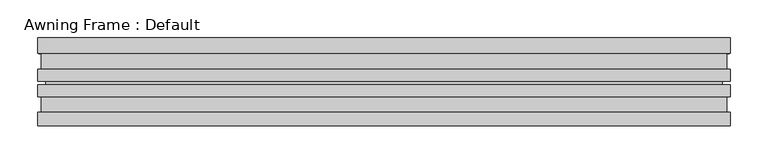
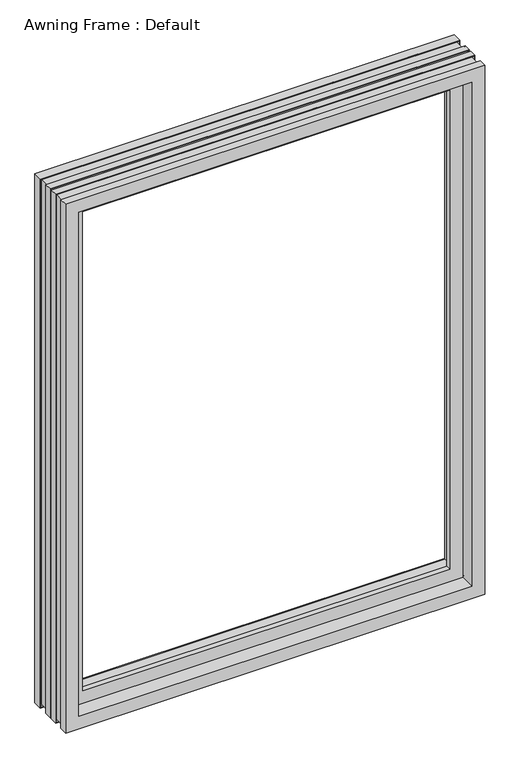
"""IFC4 building model written with IfcOpenShell, lengths in millimetres: proxy geometry, Awning Frame : Default."""

from ifc_helpers import new_model, si_unit, frame, origin, place, context, project, spatial, polyline, ellipse_curve, source, transform, mapped, element, save
from ifc_brep_helpers import plane_surface, revolved_surface, advanced_brep


def awning_frame_default_150c298d(model_context):
    return source(origin(), model_context, "Body", "AdvancedBrep", [
        advanced_brep(
        [(428.625, -82.55, 790.575), (-428.625, -82.55, 790.575), (-428.625, -115.8875, 790.575), (428.625, -115.8875, 790.575), (400.05, -69.85, 819.15), (-400.05, -69.85, 819.15), (-400.05, -82.55, 819.15), (400.05, -82.55, 819.15), (428.625, -14.2875, 790.575), (-428.625, -14.2875, 790.575), (-428.625, -69.85, 790.575), (428.625, -69.85, 790.575), (-428.625, -82.55, 1952.625), (-428.625, -115.8875, 1952.625), (-400.05, -69.85, 1924.05), (-400.05, -82.55, 1924.05), (-428.625, -14.2875, 1952.625), (-428.625, -69.85, 1952.625), (428.625, -82.55, 1952.625), (428.625, -115.8875, 1952.625), (400.05, -69.85, 1924.05), (400.05, -82.55, 1924.05), (428.625, -14.2875, 1952.625), (428.625, -69.85, 1952.625), (457.2, 0.0, 762.0), (-457.2, 0.0, 762.0), (-457.2, 0.0, 1981.2), (457.2, 0.0, 1981.2), (-438.15, 0.0, 781.05), (438.15, 0.0, 781.05), (438.15, 0.0, 1962.15), (-438.15, 0.0, 1962.15), (-457.2, -115.8875, 762.0), (457.2, -115.8875, 762.0), (457.2, -115.8875, 1981.2), (-457.2, -115.8875, 1981.2), (-438.15, -14.2875, 781.05), (438.15, -14.2875, 781.05), (-438.15, -14.2875, 1962.15), (438.15, -14.2875, 1962.15), (457.2, -20.6375, 762.0), (-457.2, -20.6375, 762.0), (454.421875, -17.4625, 764.778125), (-454.421875, -17.4625, 764.778125), (-456.009375, -20.6375, 763.190625), (456.009375, -20.6375, 763.190625), (452.4375, -44.45, 766.7625), (-452.4375, -44.45, 766.7625), (-452.4375, -17.4625, 766.7625), (452.4375, -17.4625, 766.7625), (456.009375, -41.275, 763.190625), (-456.009375, -41.275, 763.190625), (-454.421875, -44.45, 764.778125), (454.421875, -44.45, 764.778125), (457.2, -57.15, 762.0), (-457.2, -57.15, 762.0), (-457.2, -41.275, 762.0), (457.2, -41.275, 762.0), (455.6125, -61.9125, 763.5875), (-455.6125, -61.9125, 763.5875), (-455.6125, -57.15, 763.5875), (455.6125, -57.15, 763.5875), (457.2, -77.7875, 762.0), (-457.2, -77.7875, 762.0), (-457.2, -61.9125, 762.0), (457.2, -61.9125, 762.0), (454.421875, -74.6125, 764.778125), (-454.421875, -74.6125, 764.778125), (-456.009375, -77.7875, 763.190625), (456.009375, -77.7875, 763.190625), (452.4375, -101.6, 766.7625), (-452.4375, -101.6, 766.7625), (-452.4375, -74.6125, 766.7625), (452.4375, -74.6125, 766.7625), (456.009375, -98.425, 763.190625), (-456.009375, -98.425, 763.190625), (-454.421875, -101.6, 764.778125), (454.421875, -101.6, 764.778125), (-457.2, -98.425, 762.0), (457.2, -98.425, 762.0), (-457.2, -20.6375, 1981.2), (-454.421875, -17.4625, 1978.421875), (-456.009375, -20.6375, 1980.009375), (-452.4375, -44.45, 1976.4375), (-452.4375, -17.4625, 1976.4375), (-456.009375, -41.275, 1980.009375), (-454.421875, -44.45, 1978.421875), (-457.2, -57.15, 1981.2), (-457.2, -41.275, 1981.2), (-455.6125, -61.9125, 1979.6125), (-455.6125, -57.15, 1979.6125), (-457.2, -77.7875, 1981.2), (-457.2, -61.9125, 1981.2), (-454.421875, -74.6125, 1978.421875), (-456.009375, -77.7875, 1980.009375), (-452.4375, -101.6, 1976.4375), (-452.4375, -74.6125, 1976.4375), (-456.009375, -98.425, 1980.009375), (-454.421875, -101.6, 1978.421875), (-457.2, -98.425, 1981.2), (457.2, -20.6375, 1981.2), (454.421875, -17.4625, 1978.421875), (456.009375, -20.6375, 1980.009375), (452.4375, -44.45, 1976.4375), (452.4375, -17.4625, 1976.4375), (456.009375, -41.275, 1980.009375), (454.421875, -44.45, 1978.421875), (457.2, -57.15, 1981.2), (457.2, -41.275, 1981.2), (455.6125, -61.9125, 1979.6125), (455.6125, -57.15, 1979.6125), (457.2, -77.7875, 1981.2), (457.2, -61.9125, 1981.2), (454.421875, -74.6125, 1978.421875), (456.009375, -77.7875, 1980.009375), (452.4375, -101.6, 1976.4375), (452.4375, -74.6125, 1976.4375), (456.009375, -98.425, 1980.009375), (454.421875, -101.6, 1978.421875), (457.2, -98.425, 1981.2)],
        [
            (0, 1),
            (1, 2),
            (2, 3),
            (3, 0),
            (4, 5),
            (5, 6),
            (6, 7),
            (7, 4),
            (8, 9),
            (9, 10),
            (10, 11),
            (11, 8),
            (1, 12),
            (12, 13),
            (13, 2),
            (5, 14),
            (14, 15),
            (15, 6),
            (9, 16),
            (16, 17),
            (17, 10),
            (12, 18),
            (18, 19),
            (19, 13),
            (14, 20),
            (20, 21),
            (21, 15),
            (16, 22),
            (22, 23),
            (23, 17),
            (18, 0),
            (3, 19),
            (21, 7),
            (20, 4),
            (23, 11),
            (22, 8),
            (24, 25),
            (25, 26),
            (26, 27),
            (27, 24),
            (28, 29),
            (29, 30),
            (30, 31),
            (31, 28),
            (32, 33),
            (33, 34),
            (34, 35),
            (35, 32),
            (28, 36),
            (36, 37),
            (37, 29),
            (31, 38),
            (38, 36),
            (30, 39),
            (39, 38),
            (39, 37),
            (40, 41),
            (41, 25),
            (24, 40),
            (42, 43),
            (43, 44),
            (44, 45),
            (45, 42),
            (46, 47),
            (47, 48),
            (48, 49),
            (49, 46),
            (50, 51),
            (51, 52),
            (52, 53),
            (53, 50),
            (54, 55),
            (55, 56),
            (56, 57),
            (57, 54),
            (58, 59),
            (59, 60, ellipse_curve(frame((-451.488054, -59.53125, 767.711946), z_axis=(-0.7071067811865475, 0.0, 0.7071067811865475), x_axis=(-0.7071067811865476, 0.0, -0.7071067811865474)), 6.7351921, 4.7625)),
            (60, 61),
            (61, 58, ellipse_curve(frame((451.488054, -59.53125, 767.711946), z_axis=(0.7071067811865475, 0.0, 0.7071067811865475), x_axis=(-0.7071067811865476, 0.0, 0.7071067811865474)), 6.7351921, 4.7625)),
            (62, 63),
            (63, 64),
            (64, 65),
            (65, 62),
            (66, 67),
            (67, 68),
            (68, 69),
            (69, 66),
            (70, 71),
            (71, 72),
            (72, 73),
            (73, 70),
            (74, 75),
            (75, 76),
            (76, 77),
            (77, 74),
            (32, 78),
            (78, 79),
            (79, 33),
            (41, 80),
            (80, 26),
            (43, 81),
            (81, 82),
            (82, 44),
            (47, 83),
            (83, 84),
            (84, 48),
            (51, 85),
            (85, 86),
            (86, 52),
            (55, 87),
            (87, 88),
            (88, 56),
            (59, 89),
            (89, 90, ellipse_curve(frame((-451.488054, -59.53125, 1975.488054), z_axis=(0.7071067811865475, 0.0, 0.7071067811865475), x_axis=(-0.7071067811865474, 0.0, 0.7071067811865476)), 6.7351921, 4.7625)),
            (90, 60),
            (63, 91),
            (91, 92),
            (92, 64),
            (67, 93),
            (93, 94),
            (94, 68),
            (71, 95),
            (95, 96),
            (96, 72),
            (75, 97),
            (97, 98),
            (98, 76),
            (35, 99),
            (99, 78),
            (80, 100),
            (100, 27),
            (81, 101),
            (101, 102),
            (102, 82),
            (83, 103),
            (103, 104),
            (104, 84),
            (85, 105),
            (105, 106),
            (106, 86),
            (87, 107),
            (107, 108),
            (108, 88),
            (89, 109),
            (109, 110, ellipse_curve(frame((451.488054, -59.53125, 1975.488054), z_axis=(0.7071067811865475, 0.0, -0.7071067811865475), x_axis=(0.7071067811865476, 0.0, 0.7071067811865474)), 6.7351921, 4.7625)),
            (110, 90),
            (91, 111),
            (111, 112),
            (112, 92),
            (93, 113),
            (113, 114),
            (114, 94),
            (95, 115),
            (115, 116),
            (116, 96),
            (97, 117),
            (117, 118),
            (118, 98),
            (34, 119),
            (119, 99),
            (100, 40),
            (102, 45),
            (101, 42),
            (104, 49),
            (103, 46),
            (106, 53),
            (105, 50),
            (108, 57),
            (107, 54),
            (110, 61),
            (109, 58),
            (112, 65),
            (111, 62),
            (114, 69),
            (113, 66),
            (116, 73),
            (115, 70),
            (118, 77),
            (117, 74),
            (119, 79),
        ],
        [
            plane_surface(frame((428.625, -115.8875, 790.575), z_axis=(0.0, 0.0, 1.0), x_axis=(-1.0, 0.0, 0.0))),
            plane_surface(frame((400.05, -82.55, 819.15), z_axis=(0.0, 0.0, 1.0), x_axis=(-1.0, 0.0, 0.0))),
            plane_surface(frame((428.625, -69.85, 790.575), z_axis=(0.0, 0.0, 1.0), x_axis=(-1.0, 0.0, 0.0))),
            plane_surface(frame((-428.625, -115.8875, 790.575), z_axis=(1.0, 0.0, 0.0), x_axis=(0.0, 0.0, 1.0))),
            plane_surface(frame((-400.05, -82.55, 819.15), z_axis=(1.0, 0.0, 0.0), x_axis=(0.0, 0.0, 1.0))),
            plane_surface(frame((-428.625, -69.85, 790.575), z_axis=(1.0, 0.0, 0.0), x_axis=(0.0, 0.0, 1.0))),
            plane_surface(frame((-428.625, -115.8875, 1952.625), z_axis=(0.0, 0.0, -1.0), x_axis=(1.0, 0.0, 0.0))),
            plane_surface(frame((-400.05, -82.55, 1924.05), z_axis=(0.0, 0.0, -1.0), x_axis=(1.0, 0.0, 0.0))),
            plane_surface(frame((-428.625, -69.85, 1952.625), z_axis=(0.0, 0.0, -1.0), x_axis=(1.0, 0.0, 0.0))),
            plane_surface(frame((428.625, -115.8875, 1952.625), z_axis=(-1.0, 0.0, 0.0), x_axis=(0.0, 0.0, -1.0))),
            plane_surface(frame((428.625, -82.55, 1952.625), z_axis=(0.0, -1.0, 0.0), x_axis=(0.0, 0.0, -1.0))),
            plane_surface(frame((400.05, -82.55, 1924.05), z_axis=(-1.0, 0.0, 0.0), x_axis=(0.0, 0.0, -1.0))),
            plane_surface(frame((400.05, -69.85, 1924.05), z_axis=(0.0, 1.0, 0.0), x_axis=(0.0, 0.0, -1.0))),
            plane_surface(frame((428.625, -69.85, 1952.625), z_axis=(-1.0, 0.0, 0.0), x_axis=(0.0, 0.0, -1.0))),
            plane_surface(frame((438.15, 0.0, 1962.15), z_axis=(0.0, 1.0, 0.0), x_axis=(0.0, 0.0, -1.0))),
            plane_surface(frame((457.2, -115.8875, 1981.2), z_axis=(0.0, -1.0, 0.0), x_axis=(0.0, 0.0, -1.0))),
            plane_surface(frame((438.15, -14.2875, 781.05), z_axis=(0.0, 0.0, 1.0), x_axis=(-1.0, 0.0, 0.0))),
            plane_surface(frame((-438.15, -14.2875, 781.05), z_axis=(1.0, 0.0, 0.0), x_axis=(0.0, 0.0, 1.0))),
            plane_surface(frame((-438.15, -14.2875, 1962.15), z_axis=(0.0, 0.0, -1.0), x_axis=(1.0, 0.0, 0.0))),
            plane_surface(frame((428.625, -14.2875, 1952.625), z_axis=(0.0, 1.0, 0.0), x_axis=(0.0, 0.0, -1.0))),
            plane_surface(frame((438.15, -14.2875, 1962.15), z_axis=(-1.0, 0.0, 0.0), x_axis=(0.0, 0.0, -1.0))),
            plane_surface(frame((457.2, 0.0, 762.0), z_axis=(0.0, 0.0, -1.0), x_axis=(-1.0, 0.0, 0.0))),
            plane_surface(frame((456.009375, -20.6375, 763.190625), z_axis=(0.0, -0.4472135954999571, 0.8944271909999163), x_axis=(-1.0, 0.0, 0.0))),
            plane_surface(frame((452.4375, -17.4625, 766.7625), z_axis=(0.0, 0.0, -1.0), x_axis=(-1.0, 0.0, 0.0))),
            plane_surface(frame((454.421875, -44.45, 764.778125), z_axis=(0.0, 0.44721359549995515, 0.8944271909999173), x_axis=(-1.0, 0.0, 0.0))),
            plane_surface(frame((457.2, -41.275, 762.0), z_axis=(0.0, 0.0, -1.0), x_axis=(-1.0, 0.0, 0.0))),
            revolved_surface(polyline([(-456.25055400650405, -54.76875, 767.711946), (456.25055400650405, -54.76875, 767.711946)]), (457.2, -59.53125, 767.711946), (-1.0, 0.0, 0.0)),
            plane_surface(frame((457.2, -61.9125, 762.0), z_axis=(0.0, 0.0, -1.0), x_axis=(-1.0, 0.0, 0.0))),
            plane_surface(frame((456.009375, -77.7875, 763.190625), z_axis=(0.0, -0.4472135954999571, 0.8944271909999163), x_axis=(-1.0, 0.0, 0.0))),
            plane_surface(frame((452.4375, -74.6125, 766.7625), z_axis=(0.0, 0.0, -1.0), x_axis=(-1.0, 0.0, 0.0))),
            plane_surface(frame((454.421875, -101.6, 764.778125), z_axis=(0.0, 0.44721359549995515, 0.8944271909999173), x_axis=(-1.0, 0.0, 0.0))),
            plane_surface(frame((457.2, -98.425, 762.0), z_axis=(0.0, 0.0, -1.0), x_axis=(-1.0, 0.0, 0.0))),
            plane_surface(frame((-457.2, 0.0, 762.0), z_axis=(-1.0, 0.0, 0.0), x_axis=(0.0, 0.0, 1.0))),
            plane_surface(frame((-456.009375, -20.6375, 763.190625), z_axis=(0.8944271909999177, -0.4472135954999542, 0.0), x_axis=(0.0, 0.0, 1.0))),
            plane_surface(frame((-452.4375, -17.4625, 766.7625), z_axis=(-1.0, 0.0, 0.0), x_axis=(0.0, 0.0, 1.0))),
            plane_surface(frame((-454.421875, -44.45, 764.778125), z_axis=(0.8944271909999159, 0.44721359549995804, 0.0), x_axis=(0.0, 0.0, 1.0))),
            plane_surface(frame((-457.2, -41.275, 762.0), z_axis=(-1.0, 0.0, 0.0), x_axis=(0.0, 0.0, 1.0))),
            revolved_surface(polyline([(-451.488054, -54.76875, 1980.250554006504), (-451.488054, -54.76875, 762.9494459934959)]), (-451.488054, -59.53125, 762.0), (0.0, 0.0, 1.0)),
            plane_surface(frame((-457.2, -61.9125, 762.0), z_axis=(-1.0, 0.0, 0.0), x_axis=(0.0, 0.0, 1.0))),
            plane_surface(frame((-456.009375, -77.7875, 763.190625), z_axis=(0.8944271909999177, -0.4472135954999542, 0.0), x_axis=(0.0, 0.0, 1.0))),
            plane_surface(frame((-452.4375, -74.6125, 766.7625), z_axis=(-1.0, 0.0, 0.0), x_axis=(0.0, 0.0, 1.0))),
            plane_surface(frame((-454.421875, -101.6, 764.778125), z_axis=(0.8944271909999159, 0.44721359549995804, 0.0), x_axis=(0.0, 0.0, 1.0))),
            plane_surface(frame((-457.2, -98.425, 762.0), z_axis=(-1.0, 0.0, 0.0), x_axis=(0.0, 0.0, 1.0))),
            plane_surface(frame((-457.2, 0.0, 1981.2), z_axis=(0.0, 0.0, 1.0), x_axis=(1.0, 0.0, 0.0))),
            plane_surface(frame((-456.009375, -20.6375, 1980.009375), z_axis=(0.0, -0.4472135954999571, -0.8944271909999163), x_axis=(1.0, 0.0, 0.0))),
            plane_surface(frame((-452.4375, -17.4625, 1976.4375), z_axis=(0.0, 0.0, 1.0), x_axis=(1.0, 0.0, 0.0))),
            plane_surface(frame((-454.421875, -44.45, 1978.421875), z_axis=(0.0, 0.44721359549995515, -0.8944271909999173), x_axis=(1.0, 0.0, 0.0))),
            plane_surface(frame((-457.2, -41.275, 1981.2), z_axis=(0.0, 0.0, 1.0), x_axis=(1.0, 0.0, 0.0))),
            revolved_surface(polyline([(456.25055400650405, -54.76875, 1975.488054), (-456.25055400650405, -54.76875, 1975.488054)]), (-457.2, -59.53125, 1975.488054), (1.0, 0.0, 0.0)),
            plane_surface(frame((-457.2, -61.9125, 1981.2), z_axis=(0.0, 0.0, 1.0), x_axis=(1.0, 0.0, 0.0))),
            plane_surface(frame((-456.009375, -77.7875, 1980.009375), z_axis=(0.0, -0.4472135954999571, -0.8944271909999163), x_axis=(1.0, 0.0, 0.0))),
            plane_surface(frame((-452.4375, -74.6125, 1976.4375), z_axis=(0.0, 0.0, 1.0), x_axis=(1.0, 0.0, 0.0))),
            plane_surface(frame((-454.421875, -101.6, 1978.421875), z_axis=(0.0, 0.44721359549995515, -0.8944271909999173), x_axis=(1.0, 0.0, 0.0))),
            plane_surface(frame((-457.2, -98.425, 1981.2), z_axis=(0.0, 0.0, 1.0), x_axis=(1.0, 0.0, 0.0))),
            plane_surface(frame((457.2, 0.0, 1981.2), z_axis=(1.0, 0.0, 0.0), x_axis=(0.0, 0.0, -1.0))),
            plane_surface(frame((457.2, -20.6375, 1981.2), z_axis=(0.0, -1.0, 0.0), x_axis=(0.0, 0.0, -1.0))),
            plane_surface(frame((456.009375, -20.6375, 1980.009375), z_axis=(-0.8944271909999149, -0.44721359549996, 0.0), x_axis=(0.0, 0.0, -1.0))),
            plane_surface(frame((454.421875, -17.4625, 1978.421875), z_axis=(0.0, -1.0, 0.0), x_axis=(0.0, 0.0, -1.0))),
            plane_surface(frame((452.4375, -17.4625, 1976.4375), z_axis=(1.0, 0.0, 0.0), x_axis=(0.0, 0.0, -1.0))),
            plane_surface(frame((452.4375, -44.45, 1976.4375), z_axis=(0.0, 1.0, 0.0), x_axis=(0.0, 0.0, -1.0))),
            plane_surface(frame((454.421875, -44.45, 1978.421875), z_axis=(-0.8944271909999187, 0.44721359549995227, 0.0), x_axis=(0.0, 0.0, -1.0))),
            plane_surface(frame((456.009375, -41.275, 1980.009375), z_axis=(0.0, 1.0, 0.0), x_axis=(0.0, 0.0, -1.0))),
            plane_surface(frame((457.2, -41.275, 1981.2), z_axis=(1.0, 0.0, 0.0), x_axis=(0.0, 0.0, -1.0))),
            plane_surface(frame((457.2, -57.15, 1981.2), z_axis=(0.0, -1.0, 0.0), x_axis=(0.0, 0.0, -1.0))),
            revolved_surface(polyline([(451.488054, -54.76875, 762.949445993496), (451.488054, -54.76875, 1980.250554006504)]), (451.488054, -59.53125, 1981.2), (0.0, 0.0, -1.0)),
            plane_surface(frame((455.6125, -61.9125, 1979.6125), z_axis=(0.0, 1.0, 0.0), x_axis=(0.0, 0.0, -1.0))),
            plane_surface(frame((457.2, -61.9125, 1981.2), z_axis=(1.0, 0.0, 0.0), x_axis=(0.0, 0.0, -1.0))),
            plane_surface(frame((457.2, -77.7875, 1981.2), z_axis=(0.0, -1.0, 0.0), x_axis=(0.0, 0.0, -1.0))),
            plane_surface(frame((456.009375, -77.7875, 1980.009375), z_axis=(-0.8944271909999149, -0.44721359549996, 0.0), x_axis=(0.0, 0.0, -1.0))),
            plane_surface(frame((454.421875, -74.6125, 1978.421875), z_axis=(0.0, -1.0, 0.0), x_axis=(0.0, 0.0, -1.0))),
            plane_surface(frame((452.4375, -74.6125, 1976.4375), z_axis=(1.0, 0.0, 0.0), x_axis=(0.0, 0.0, -1.0))),
            plane_surface(frame((452.4375, -101.6, 1976.4375), z_axis=(0.0, 1.0, 0.0), x_axis=(0.0, 0.0, -1.0))),
            plane_surface(frame((454.421875, -101.6, 1978.421875), z_axis=(-0.8944271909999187, 0.44721359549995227, 0.0), x_axis=(0.0, 0.0, -1.0))),
            plane_surface(frame((456.009375, -98.425, 1980.009375), z_axis=(0.0, 1.0, 0.0), x_axis=(0.0, 0.0, -1.0))),
            plane_surface(frame((457.2, -98.425, 1981.2), z_axis=(1.0, 0.0, 0.0), x_axis=(0.0, 0.0, -1.0))),
        ],
        [
            (0, [[1, 2, 3, 4]]),
            (1, [[5, 6, 7, 8]]),
            (2, [[9, 10, 11, 12]]),
            (3, [[13, 14, 15, -2]]),
            (4, [[16, 17, 18, -6]]),
            (5, [[19, 20, 21, -10]]),
            (6, [[22, 23, 24, -14]]),
            (7, [[25, 26, 27, -17]]),
            (8, [[28, 29, 30, -20]]),
            (9, [[31, -4, 32, -23]]),
            (10, [[-1, -31, -22, -13], [-7, -18, -27, 33]]),
            (11, [[34, -8, -33, -26]]),
            (12, [[-11, -21, -30, 35], [-5, -34, -25, -16]]),
            (13, [[36, -12, -35, -29]]),
            (14, [[37, 38, 39, 40], [41, 42, 43, 44]]),
            (15, [[45, 46, 47, 48], [-3, -15, -24, -32]]),
            (16, [[-41, 49, 50, 51]]),
            (17, [[-44, 52, 53, -49]]),
            (18, [[-43, 54, 55, -52]]),
            (19, [[-50, -53, -55, 56], [-9, -36, -28, -19]]),
            (20, [[-42, -51, -56, -54]]),
            (21, [[57, 58, -37, 59]]),
            (22, [[60, 61, 62, 63]]),
            (23, [[64, 65, 66, 67]]),
            (24, [[68, 69, 70, 71]]),
            (25, [[72, 73, 74, 75]]),
            (26, [[76, 77, 78, 79]]),
            (27, [[80, 81, 82, 83]]),
            (28, [[84, 85, 86, 87]]),
            (29, [[88, 89, 90, 91]]),
            (30, [[92, 93, 94, 95]]),
            (31, [[-45, 96, 97, 98]]),
            (32, [[99, 100, -38, -58]]),
            (33, [[101, 102, 103, -61]]),
            (34, [[104, 105, 106, -65]]),
            (35, [[107, 108, 109, -69]]),
            (36, [[110, 111, 112, -73]]),
            (37, [[113, 114, 115, -77]]),
            (38, [[116, 117, 118, -81]]),
            (39, [[119, 120, 121, -85]]),
            (40, [[122, 123, 124, -89]]),
            (41, [[125, 126, 127, -93]]),
            (42, [[-48, 128, 129, -96]]),
            (43, [[130, 131, -39, -100]]),
            (44, [[132, 133, 134, -102]]),
            (45, [[135, 136, 137, -105]]),
            (46, [[138, 139, 140, -108]]),
            (47, [[141, 142, 143, -111]]),
            (48, [[144, 145, 146, -114]]),
            (49, [[147, 148, 149, -117]]),
            (50, [[150, 151, 152, -120]]),
            (51, [[153, 154, 155, -123]]),
            (52, [[156, 157, 158, -126]]),
            (53, [[-47, 159, 160, -128]]),
            (54, [[161, -59, -40, -131]]),
            (55, [[-57, -161, -130, -99], [-62, -103, -134, 162]]),
            (56, [[163, -63, -162, -133]]),
            (57, [[-60, -163, -132, -101], [-66, -106, -137, 164]]),
            (58, [[165, -67, -164, -136]]),
            (59, [[-70, -109, -140, 166], [-64, -165, -135, -104]]),
            (60, [[167, -71, -166, -139]]),
            (61, [[-74, -112, -143, 168], [-68, -167, -138, -107]]),
            (62, [[169, -75, -168, -142]]),
            (63, [[-72, -169, -141, -110], [-78, -115, -146, 170]]),
            (64, [[171, -79, -170, -145]]),
            (65, [[-82, -118, -149, 172], [-76, -171, -144, -113]]),
            (66, [[173, -83, -172, -148]]),
            (67, [[-80, -173, -147, -116], [-86, -121, -152, 174]]),
            (68, [[175, -87, -174, -151]]),
            (69, [[-84, -175, -150, -119], [-90, -124, -155, 176]]),
            (70, [[177, -91, -176, -154]]),
            (71, [[-94, -127, -158, 178], [-88, -177, -153, -122]]),
            (72, [[179, -95, -178, -157]]),
            (73, [[-97, -129, -160, 180], [-92, -179, -156, -125]]),
            (74, [[-46, -98, -180, -159]]),
        ],
    ),
    ])


if __name__ == "__main__":
    model = new_model("IFC4")
    model_context = context("Model", 3, world=origin())
    ifc_project = project(units=[si_unit("LENGTHUNIT", "METRE", prefix="MILLI")], contexts=[model_context])
    site = spatial("IfcSite", under=ifc_project)
    building = spatial("IfcBuilding", under=site)
    placement = place(None, origin())
    awning_frame_default_shape = awning_frame_default_150c298d(model_context)
    element("IfcBuildingElementProxy", 1, Name="Awning Frame : Default", ObjectType="Awning Frame : Default", at=placement, inside=building, context=model_context, shape_type="MappedRepresentation", body=[
        mapped(awning_frame_default_shape, transform((0.0, 0.0, 0.0), x_axis=(1.0, 0.0, 0.0), y_axis=(0.0, 1.0, 0.0), z_axis=(0.0, 0.0, 1.0))),
    ])
    save(model, "model.ifc")
